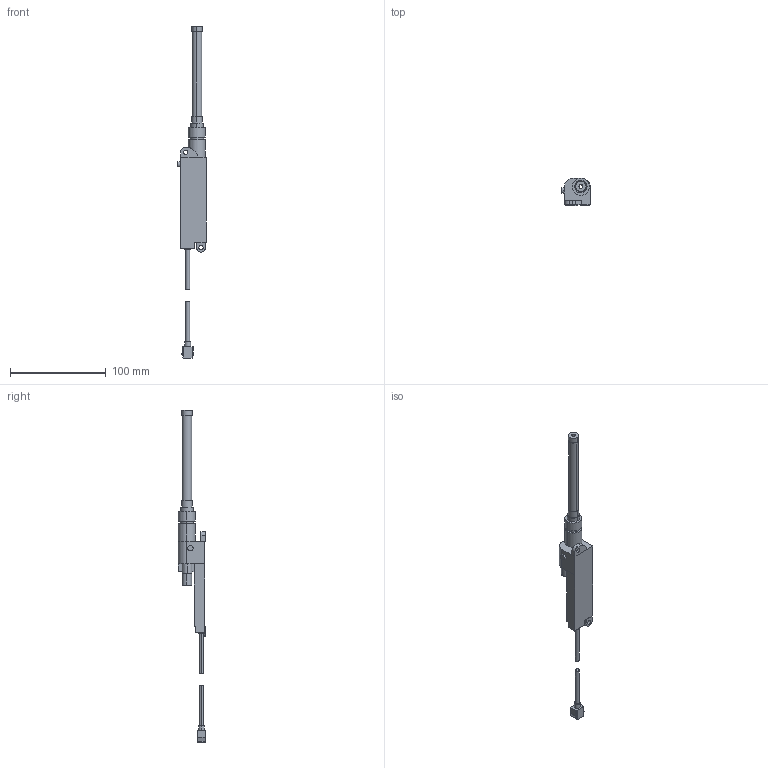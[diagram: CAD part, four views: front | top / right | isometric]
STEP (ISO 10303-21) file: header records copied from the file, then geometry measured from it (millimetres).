
FILE_DESCRIPTION (( 'STEP AP203' ), '1' );
FILE_NAME ('ER-VS01(+ER-VAK10).STEP', '2005-09-09T04:27:50', ( ' ' ), ( ' ' ), 'SwSTEP 2.0', 'SolidWorks 2004073', '' );
FILE_SCHEMA (( 'CONFIG_CONTROL_DESIGN' ));
Length unit declared in the file: millimetre
Products named in the file (4): ER-VS01_蹬怮椔; ER-VAJK_蹬怮椔; ER-VS01(+ER-VAK10); ER-VAK10_蹬怮椔
Assembly tree (3 placements, depth 2):
  ER-VS01(+ER-VAK10)
    ER-VAJK_蹬怮椔
    ER-VS01_蹬怮椔
    ER-VAK10_蹬怮椔
Bounding box: 29.8 x 28.6 x 347.2 mm (x, y, z)
Volume: 57967.5 mm3; surface area: 22621.4 mm2
Topology: 4 solids, 4 shells, 163 faces, 397 edges, 263 vertices
Faces by surface type: plane 94, cylinder 69
Entity records: 5241 total; most frequent: DIRECTION 873, CARTESIAN_POINT 829, ORIENTED_EDGE 794, EDGE_CURVE 397, AXIS2_PLACEMENT_3D 307, VERTEX_POINT 263, LINE 259, VECTOR 259
